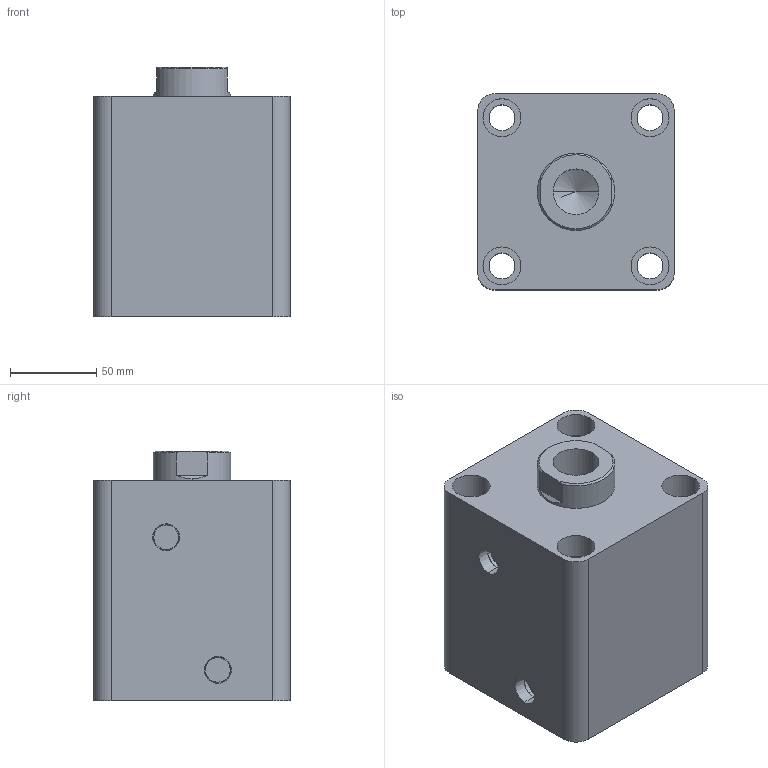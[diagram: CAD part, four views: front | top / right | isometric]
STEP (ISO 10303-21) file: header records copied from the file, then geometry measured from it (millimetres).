
FILE_DESCRIPTION (( 'STEP AP203' ), '1' );
FILE_NAME ('HTB-SD80-50N.STEP', '2019-10-07T08:25:46', ( '微软用户' ), ( '微软中国' ), 'SwSTEP 2.0', 'SolidWorks 2012', '' );
FILE_SCHEMA (( 'CONFIG_CONTROL_DESIGN' ));
Length unit declared in the file: millimetre
Products named in the file (3): HTB-SD80-50N; HTB-SD80-50N活塞杆; HTB-SD80-50掛极
Assembly tree (2 placements, depth 2):
  HTB-SD80-50N
    HTB-SD80-50掛极
    HTB-SD80-50N活塞杆
Bounding box: 114 x 114 x 145 mm (x, y, z)
Volume: 1367570.7 mm3; surface area: 174543.2 mm2
Topology: 2 solids, 2 shells, 83 faces, 184 edges, 119 vertices
Faces by surface type: cylinder 42, plane 27, cone 8, torus 6
Entity records: 2655 total; most frequent: DIRECTION 456, CARTESIAN_POINT 417, ORIENTED_EDGE 364, AXIS2_PLACEMENT_3D 194, EDGE_CURVE 182, VERTEX_POINT 119, EDGE_LOOP 107, CIRCLE 106
